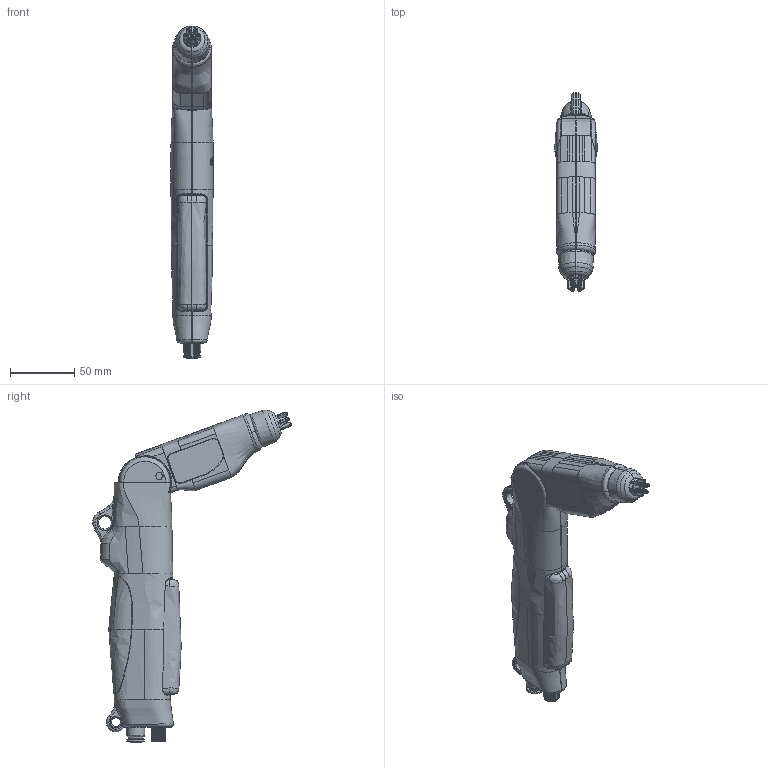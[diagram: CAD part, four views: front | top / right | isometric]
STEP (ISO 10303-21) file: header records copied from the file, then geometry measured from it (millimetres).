
FILE_DESCRIPTION (( 'STEP AP214' ), '1' );
FILE_NAME ('CleanflexEasy_HandGun3_3D_GB.STEP', '2021-07-21T08:00:24', ( '' ), ( '' ), 'SwSTEP 2.0', 'SolidWorks 2021', '' );
FILE_SCHEMA (( 'AUTOMOTIVE_DESIGN' ));
Length unit declared in the file: millimetre
Products named in the file (1): CleanflexEasy_HandGun3_3D_GB
Bounding box: 33.12 x 154.94 x 258.78 mm (x, y, z)
Surface area: 53732.7 mm2 (no closed solid volume)
Topology: 0 solids, 39 shells, 728 faces, 2630 edges, 1884 vertices
Faces by surface type: bspline 227, cylinder 199, plane 138, torus 89, cone 65, sphere 10
Entity records: 65459 total; most frequent: CARTESIAN_POINT 37840, ORIENTED_EDGE 4209, DIRECTION 3392, EDGE_CURVE 2620, VERTEX_POINT 1884, AXIS2_PLACEMENT_3D 1366, B_SPLINE_CURVE_WITH_KNOTS 1060, CIRCLE 864
